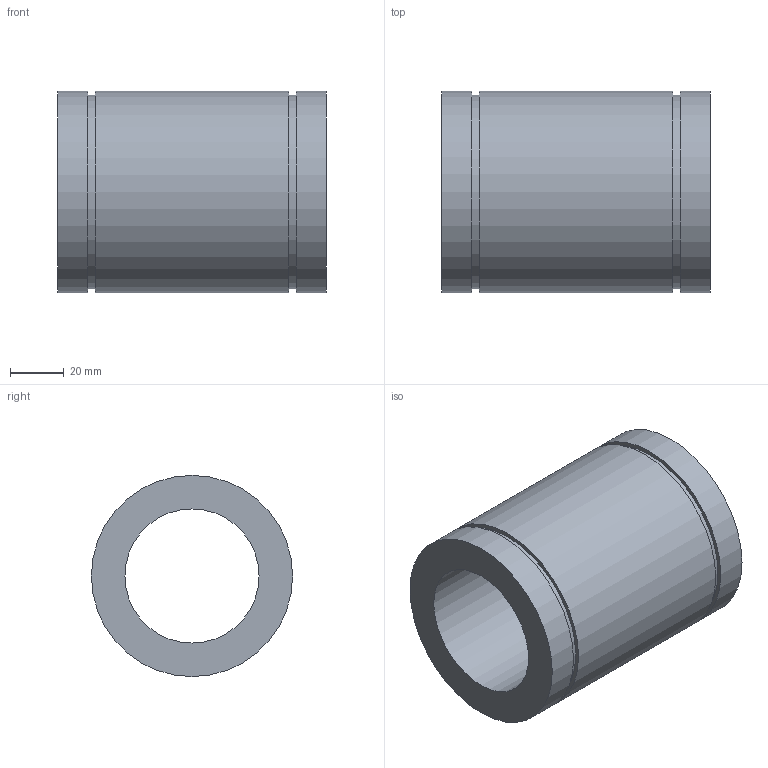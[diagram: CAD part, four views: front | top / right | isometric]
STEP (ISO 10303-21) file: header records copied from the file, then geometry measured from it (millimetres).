
FILE_DESCRIPTION( ( 'STEP AP203' ), '1' );
FILE_NAME( 'p:/temp/worker_102/temp/exporttempdir_4024_447_ggRzC/format_0/LME50UU.stp', '2020-04-29T03:07:43', ( 'License CC BY-ND 4.0' ), ( 'CADENAS' ), ' ', 'PARTsolutions', ' ' );
FILE_SCHEMA( ( 'CONFIG_CONTROL_DESIGN' ) );
Length unit declared in the file: millimetre
Products named in the file (1): _LME50UU
Bounding box: 100 x 75 x 75 mm (x, y, z)
Volume: 243601.2 mm3; surface area: 45514.1 mm2
Topology: 1 solids, 1 shells, 12 faces, 18 edges, 12 vertices
Faces by surface type: plane 6, cylinder 6
Full cylindrical faces by diameter (mm): 50 x1, 72 x2, 75 x3
Entity records: 292 total; most frequent: DIRECTION 50, CARTESIAN_POINT 37, AXIS2_PLACEMENT_3D 25, EDGE_LOOP 24, ORIENTED_EDGE 24, FACE_OUTER_BOUND 18, ADVANCED_FACE 12, EDGE_CURVE 12
